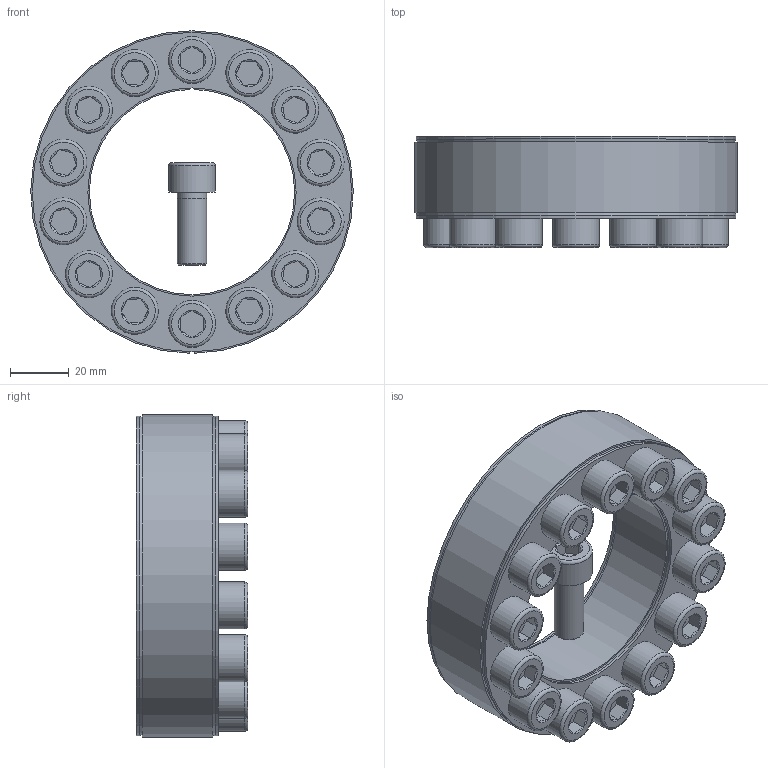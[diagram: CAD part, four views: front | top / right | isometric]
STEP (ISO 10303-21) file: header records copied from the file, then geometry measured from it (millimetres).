
FILE_DESCRIPTION( ( 'Unknown' ), '1' );
FILE_NAME( 'C:/Dokumente und Einstellungen/Sven/Desktop/homepage/cad - homepage/KBS40/KBS 40 - 70 x 110.stp', 'Unknown', ( 'Unknown' ), ( 'Unknown' ), 'XStep 1.0', 'Unknown', ' ' );
FILE_SCHEMA( ( 'automotive_design' ) );
Length unit declared in the file: millimetre
Products named in the file (16): Assem1; KBS 40 70x110; ISO 4762 M10x25; ISO 4762 M10x25-oa0; ISO 4762 M10x25-oa1; ISO 4762 M10x25-oa2; ISO 4762 M10x25-oa3; ISO 4762 M10x25-oa4; ISO 4762 M10x25-oa5; ISO 4762 M10x25-oa6; ISO 4762 M10x25-oa7; ISO 4762 M10x25-oa8; ISO 4762 M10x25-oa9; ISO 4762 M10x25-oa10; ISO 4762 M10x25-oa11; ISO 4762 M10x25-oa12
Bounding box: 110 x 38 x 109.99 mm (x, y, z)
Volume: 355400.9 mm3; surface area: 126255.9 mm2
Topology: 30 solids, 30 shells, 788 faces, 1456 edges, 840 vertices
Faces by surface type: plane 376, cone 204, cylinder 152, torus 56
Full cylindrical faces by diameter (mm): 9 x28, 10 x84, 16 x28, 71 x4, 109 x4
Entity records: 9689 total; most frequent: CARTESIAN_POINT 2022, DIRECTION 1600, ORIENTED_EDGE 1156, AXIS2_PLACEMENT_3D 696, EDGE_LOOP 600, EDGE_CURVE 578, FACE_OUTER_BOUND 496, ADVANCED_FACE 394
